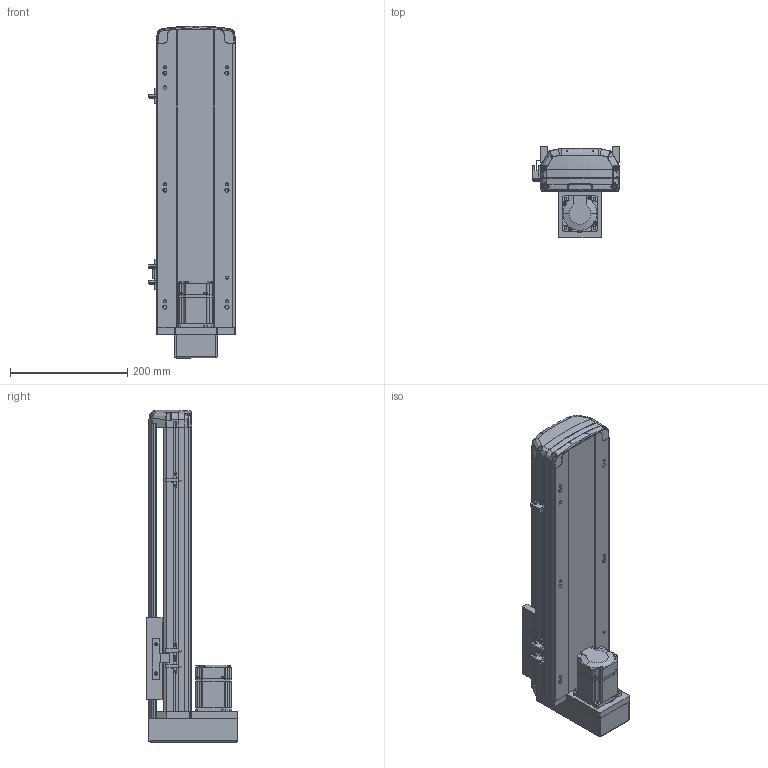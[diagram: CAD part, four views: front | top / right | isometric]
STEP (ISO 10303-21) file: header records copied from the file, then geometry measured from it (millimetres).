
FILE_DESCRIPTION (( 'STEP AP214' ), '1' );
FILE_NAME ('RTH14-XX-300-M-M20-C4.STEP', '2025-10-25T02:47:30', ( 'Microsoft' ), ( 'Microsoft' ), 'SwSTEP 2.0', 'SolidWorks 2018', '' );
FILE_SCHEMA (( 'AUTOMOTIVE_DESIGN' ));
Length unit declared in the file: millimetre
Products named in the file (10): N_OMRON EE-SX672 传感器^RTH14-XX-XX-M-M20-C4; N_RTH13-M-018裔赽^RTH14-XX-XX-M-M20-C4; RTH14-XX-300-M-M20-C4; N_RTH13-L-012感应片（外置）^RTH14-XX-XX-M-M20-C4; N_RTH13-M-008萇儂啣狟殏^RTH14-XX-XX-M-M20-C4; N_MSMD022P1AA_200W^RTH14-XX-XX-M-M20-C4; N_RTH14-R-004-SFSR16賑釱^RTH14-XX-XX-M-M20-C4; N_RTH14-M-011P菁釱^RTH14-XX-XX-M-M20-C4; N_RTH14-M-007P奻裔^RTH14-XX-XX-M-M20-C4; N_RTH14-GY-001P^RTH14-XX-XX-M-M20-C4
Assembly tree (11 placements, depth 2):
  RTH14-XX-300-M-M20-C4
    N_RTH14-M-011P菁釱^RTH14-XX-XX-M-M20-C4
    N_RTH14-M-007P奻裔^RTH14-XX-XX-M-M20-C4
    N_MSMD022P1AA_200W^RTH14-XX-XX-M-M20-C4
    N_RTH13-M-008萇儂啣狟殏^RTH14-XX-XX-M-M20-C4
    N_RTH13-M-018裔赽^RTH14-XX-XX-M-M20-C4
    N_RTH13-L-012感应片（外置）^RTH14-XX-XX-M-M20-C4
    N_OMRON EE-SX672 传感器^RTH14-XX-XX-M-M20-C4  x3
    N_RTH14-R-004-SFSR16賑釱^RTH14-XX-XX-M-M20-C4
    N_RTH14-GY-001P^RTH14-XX-XX-M-M20-C4
Bounding box: 148.5 x 156.5 x 567.49 mm (x, y, z)
Volume: 2793670.7 mm3; surface area: 654682.5 mm2
Topology: 11 solids, 11 shells, 1847 faces, 5156 edges, 3376 vertices
Faces by surface type: plane 991, cylinder 462, bspline 345, cone 45, torus 4
Entity records: 56114 total; most frequent: CARTESIAN_POINT 22771, ORIENTED_EDGE 7380, DIRECTION 5867, EDGE_CURVE 3690, VERTEX_POINT 2412, VECTOR 2145, LINE 2145, AXIS2_PLACEMENT_3D 1861
